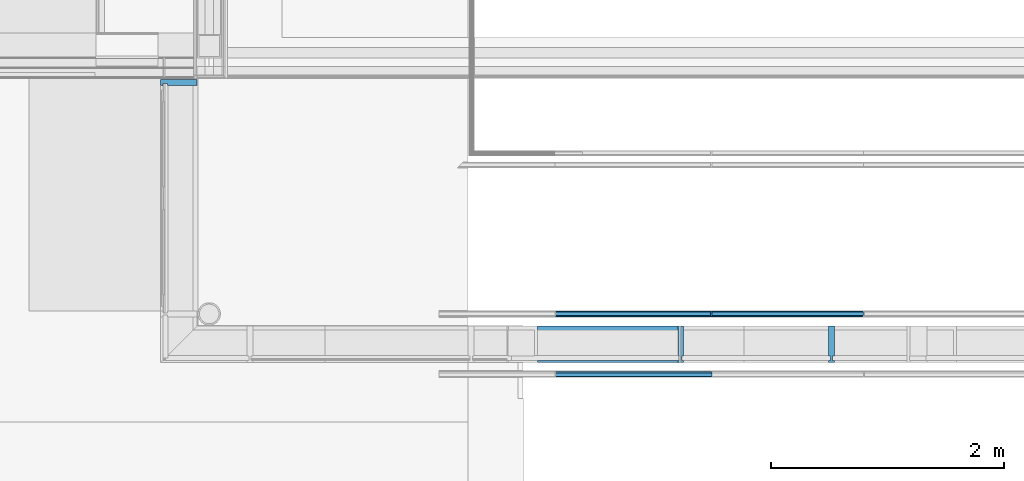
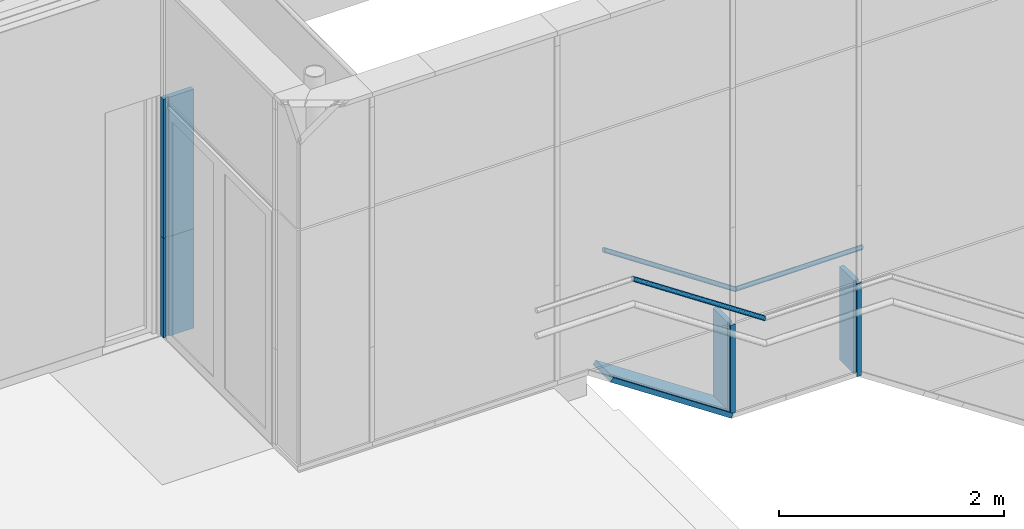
# One storey, part 14 of 137: 8 members, 3 elements without a shape of their own.
"""IFC2X3 building model written with IfcOpenShell, lengths in millimetres."""

from ifc_helpers import new_model, entity, si_unit, converted_unit, derived_unit, money_unit, direction, frame, origin_with_axes, place, context, subcontext, project, spatial, faceted_brep, material, type_object, element, aggregate, save


model = new_model("IFC2X3")

# Units and contexts
model_context = context("Model", 3, precision=0.01, world=origin_with_axes(), true_north=direction((0.0, 1.0)))
body_context = subcontext(model_context, "Body", "Model", "MODEL_VIEW")
ifc_project = project(units=[si_unit("LENGTHUNIT", "METRE", prefix="MILLI"), si_unit("AREAUNIT", "SQUARE_METRE"), si_unit("VOLUMEUNIT", "CUBIC_METRE"), converted_unit("PLANEANGLEUNIT", "DEGREE", entity("IfcPlaneAngleMeasure", 0.0174532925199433), si_unit("PLANEANGLEUNIT", "RADIAN"), dimensions=[0, 0, 0, 0, 0, 0, 0]), money_unit("EUR"), converted_unit("TIMEUNIT", "Year", entity("IfcTimeMeasure", 31556926.0), si_unit("TIMEUNIT", "SECOND"), dimensions=[0, 0, 1, 0, 0, 0, 0]), si_unit("MASSUNIT", "GRAM", prefix="KILO"), si_unit("THERMODYNAMICTEMPERATUREUNIT", "DEGREE_CELSIUS"), si_unit("LUMINOUSINTENSITYUNIT", "LUMEN"), si_unit("ENERGYUNIT", "JOULE", prefix="MEGA"), derived_unit("THERMALCONDUCTANCEUNIT", [(si_unit("POWERUNIT", "WATT"), 1), (si_unit("LENGTHUNIT", "METRE"), -1), (si_unit("THERMODYNAMICTEMPERATUREUNIT", "KELVIN"), -1)]), derived_unit("SPECIFICHEATCAPACITYUNIT", [(si_unit("ENERGYUNIT", "JOULE"), 1), (si_unit("MASSUNIT", "GRAM", prefix="KILO"), -1), (si_unit("THERMODYNAMICTEMPERATUREUNIT", "KELVIN"), -1)]), derived_unit("MASSDENSITYUNIT", [(si_unit("MASSUNIT", "GRAM", prefix="KILO"), 1), (si_unit("VOLUMEUNIT", "CUBIC_METRE"), -1)])], contexts=[model_context])

# Site, building, storey
site_placement = place(None, origin_with_axes())
site = spatial("IfcSite", under=ifc_project, at=site_placement, Name="Site", CompositionType="ELEMENT")
building_placement = place(site_placement, origin_with_axes())
building = spatial("IfcBuilding", under=site, at=building_placement, Name="Naam gebouw", CompositionType="ELEMENT")
storey_placement = place(building_placement, frame((0.0, 0.0, 3960.0), z_axis=(0.0, 0.0, 1.0), x_axis=(1.0, 0.0, 0.0)))
storey = spatial("IfcBuildingStorey", under=building, at=storey_placement, Name="1e verdieping", CompositionType="ELEMENT", Elevation=3960.0)

# Railing, member
railing_type = type_object("IfcRailingType", Name="Railing Type", PredefinedType="NOTDEFINED")
railing_1_placement = place(storey_placement, frame((18789.99987047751, 4162.49999999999, -4086.699999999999), z_axis=(0.0, 0.0, 1.0), x_axis=(1.0, 0.0, 0.0)))
railing_1 = element("IfcRailing", 1, at=railing_1_placement, inside=storey, type_object=railing_type, Name="34_Reling-x", PredefinedType="NOTDEFINED")
ifc_material_1 = material(Name="Metaal - RVS")
member_type_1 = type_object("IfcMemberType", Name="IfcMember", PredefinedType="USERDEFINED")
member_1_placement = place(railing_1_placement, frame((-6294.999882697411, -99.99999999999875, 4132.675675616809), z_axis=(0.0, 0.0, 1.0), x_axis=(1.0, 0.0, 0.0)))
member_1 = element("IfcMember", 2, at=member_1_placement, type_object=member_type_1, material=ifc_material_1, Name="h3 Staal legeringen_", context=body_context, shape_type="Brep", body=[
    faceted_brep([(667.6879100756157, -24.14999999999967, 29.85104165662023), (668.9576311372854, -23.78310723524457, 34.04464514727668), (-681.042253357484, -23.78310723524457, 934.0446451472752), (-682.3119744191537, -24.14999999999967, 929.8510416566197), (666.418189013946, -23.78310723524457, 25.65743816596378), (665.1870477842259, -22.69357679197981, 21.5912551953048), (664.0318939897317, -20.91451350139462, 17.77604165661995), (662.987826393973, -18.49997330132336, 14.32772088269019), (662.0865684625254, -15.52332077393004, 11.35106835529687), (661.355504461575, -12.07500000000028, 8.93652815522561), (660.8168474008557, -8.259786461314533, 7.157464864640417), (660.4869641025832, -4.19360349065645, 6.067934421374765), (660.3758779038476, 0.0, 5.701041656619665), (660.4869641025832, 4.19360349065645, 6.067934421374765), (660.8168474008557, 8.259786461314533, 7.157464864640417), (661.355504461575, 12.07500000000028, 8.93652815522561), (662.0865684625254, 15.52332077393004, 11.35106835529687), (662.987826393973, 18.49997330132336, 14.32772088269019), (664.0318939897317, 20.91451350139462, 17.77604165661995), (665.1870477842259, 22.69357679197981, 21.5912551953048), (666.418189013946, 23.78310723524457, 25.65743816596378), (667.6879100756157, 24.14999999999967, 29.85104165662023), (668.9576311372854, 23.78310723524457, 34.04464514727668), (670.1887723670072, 22.69357679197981, 38.11082811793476), (671.3439261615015, 20.91451350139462, 41.92604165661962), (672.3879937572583, 18.49997330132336, 45.37436243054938), (673.2892516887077, 15.52332077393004, 48.35101495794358), (674.020315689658, 12.07500000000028, 50.76555515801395), (674.5589727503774, 8.259786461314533, 52.54461844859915), (674.8888560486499, 4.19360349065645, 53.6341488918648), (674.9999422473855, 0.0, 54.0010416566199), (674.8888560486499, -4.19360349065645, 53.6341488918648), (674.5589727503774, -8.259786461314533, 52.54461844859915), (674.020315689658, -12.07500000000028, 50.76555515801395), (673.2892516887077, -15.52332077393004, 48.35101495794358), (672.3879937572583, -18.49997330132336, 45.37436243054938), (671.3439261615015, -20.91451350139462, 41.92604165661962), (670.1887723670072, -22.69357679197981, 38.11082811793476), (-679.8111121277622, -22.69357679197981, 938.1108281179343), (-678.6559583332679, -20.91451350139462, 941.9260416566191), (-677.6118907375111, -18.49997330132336, 945.3743624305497), (-676.7106328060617, -15.52332077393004, 948.3510149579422), (-675.9795688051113, -12.07500000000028, 950.7655551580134), (-675.440911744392, -8.259786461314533, 952.5446184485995), (-675.1110284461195, -4.19360349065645, 953.6341488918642), (-674.9999422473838, 0.0, 954.0010416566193), (-675.1110284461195, 4.19360349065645, 953.6341488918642), (-675.440911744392, 8.259786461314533, 952.5446184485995), (-675.9795688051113, 12.07500000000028, 950.7655551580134), (-676.7106328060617, 15.52332077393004, 948.3510149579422), (-677.6118907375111, 18.49997330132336, 945.3743624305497), (-678.6559583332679, 20.91451350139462, 941.9260416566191), (-679.8111121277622, 22.69357679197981, 938.1108281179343), (-681.042253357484, 23.78310723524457, 934.0446451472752), (-682.3119744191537, 24.14999999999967, 929.8510416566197), (-683.5816954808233, 23.78310723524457, 925.6574381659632), (-684.8128367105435, 22.69357679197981, 921.5912551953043), (-685.9679905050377, 20.91451350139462, 917.7760416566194), (-687.0120581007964, 18.49997330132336, 914.3277208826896), (-687.913316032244, 15.52332077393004, 911.3510683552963), (-688.6443800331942, 12.07500000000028, 908.9365281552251), (-689.1830370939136, 8.259786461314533, 907.1574648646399), (-689.5129203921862, 4.19360349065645, 906.0679344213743), (-689.6240065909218, 0.0, 905.7010416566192), (-689.5129203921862, -4.19360349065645, 906.0679344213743), (-689.1830370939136, -8.259786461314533, 907.1574648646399), (-688.6443800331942, -12.07500000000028, 908.9365281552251), (-687.913316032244, -15.52332077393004, 911.3510683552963), (-687.0120581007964, -18.49997330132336, 914.3277208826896), (-685.9679905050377, -20.91451350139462, 917.7760416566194), (-684.8128367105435, -22.69357679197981, 921.5912551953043), (-683.5816954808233, -23.78310723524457, 925.6574381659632)], [[[0, 1, 2, 3]], [[0, 4, 5, 6, 7, 8, 9, 10, 11, 12, 13, 14, 15, 16, 17, 18, 19, 20, 21, 22, 23, 24, 25, 26, 27, 28, 29, 30, 31, 32, 33, 34, 35, 36, 37, 1]], [[1, 37, 38, 2]], [[3, 2, 38, 39, 40, 41, 42, 43, 44, 45, 46, 47, 48, 49, 50, 51, 52, 53, 54, 55, 56, 57, 58, 59, 60, 61, 62, 63, 64, 65, 66, 67, 68, 69, 70, 71]], [[4, 0, 3, 71]], [[5, 4, 71, 70]], [[6, 5, 70, 69]], [[7, 6, 69, 68]], [[8, 7, 68, 67]], [[9, 8, 67, 66]], [[10, 9, 66, 65]], [[11, 10, 65, 64]], [[12, 11, 64, 63]], [[13, 12, 63, 62]], [[14, 13, 62, 61]], [[15, 14, 61, 60]], [[16, 15, 60, 59]], [[17, 16, 59, 58]], [[18, 17, 58, 57]], [[19, 18, 57, 56]], [[20, 19, 56, 55]], [[21, 20, 55, 54]], [[22, 21, 54, 53]], [[23, 22, 53, 52]], [[24, 23, 52, 51]], [[25, 24, 51, 50]], [[26, 25, 50, 49]], [[27, 26, 49, 48]], [[28, 27, 48, 47]], [[29, 28, 47, 46]], [[30, 29, 46, 45]], [[31, 30, 45, 44]], [[32, 31, 44, 43]], [[33, 32, 43, 42]], [[34, 33, 42, 41]], [[35, 34, 41, 40]], [[36, 35, 40, 39]], [[37, 36, 39, 38]]]),
])
aggregate(railing_1, [member_1])

# Railing, members
railing_2_placement = place(storey_placement, frame((18789.99987047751, 4479.999999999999, -4086.699999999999), z_axis=(0.0, 0.0, 1.0), x_axis=(1.0, 0.0, 0.0)))
railing_2 = element("IfcRailing", 3, at=railing_2_placement, inside=storey, type_object=railing_type, Name="34_Reling-x", PredefinedType="NOTDEFINED")
member_2_placement = place(railing_2_placement, frame((-4969.999970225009, 99.99999999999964, 4132.675675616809), z_axis=(0.0, 0.0, 1.0), x_axis=(1.0, 0.0, 0.0)))
member_2 = element("IfcMember", 4, at=member_2_placement, type_object=member_type_1, material=ifc_material_1, Name="h3 Staal legeringen_", context=body_context, shape_type="Brep", body=[
    faceted_brep([(642.6879385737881, -24.14999999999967, 29.85104165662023), (643.9576595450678, -23.78310723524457, 34.04464514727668), (-656.0422813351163, -23.78310723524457, 34.04464514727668), (-657.312002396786, -24.14999999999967, 29.85104165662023), (641.41821760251, -23.78310723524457, 25.65743816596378), (640.1870764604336, -22.69357679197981, 21.5912551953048), (639.031922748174, -20.91451350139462, 17.77604165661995), (637.9878552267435, -18.49997330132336, 14.32772088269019), (637.0865973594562, -15.52332077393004, 11.35106835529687), (636.3555334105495, -12.07500000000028, 8.93652815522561), (635.8168763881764, -8.259786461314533, 7.157464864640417), (635.4869931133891, -4.19360349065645, 6.067934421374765), (635.3759069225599, 0.0, 5.701041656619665), (635.4869931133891, 4.19360349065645, 6.067934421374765), (635.8168763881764, 8.259786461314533, 7.157464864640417), (636.3555334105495, 12.07500000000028, 8.93652815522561), (637.0865973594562, 15.52332077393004, 11.35106835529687), (637.9878552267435, 18.49997330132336, 14.32772088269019), (639.031922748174, 20.91451350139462, 17.77604165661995), (640.1870764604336, 22.69357679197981, 21.5912551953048), (641.41821760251, 23.78310723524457, 25.65743816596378), (642.6879385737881, 24.14999999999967, 29.85104165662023), (643.9576595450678, 23.78310723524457, 34.04464514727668), (645.1888006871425, 22.69357679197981, 38.11082811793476), (646.343954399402, 20.91451350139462, 41.92604165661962), (647.3880219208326, 18.49997330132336, 45.37436243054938), (648.2892797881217, 15.52332077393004, 48.35101495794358), (649.0203437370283, 12.07500000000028, 50.76555515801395), (649.5590007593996, 8.259786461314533, 52.54461844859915), (649.8888840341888, 4.19360349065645, 53.6341488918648), (649.9999702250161, 0.0, 54.0010416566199), (649.8888840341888, -4.19360349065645, 53.6341488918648), (649.5590007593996, -8.259786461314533, 52.54461844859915), (649.0203437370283, -12.07500000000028, 50.76555515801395), (648.2892797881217, -15.52332077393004, 48.35101495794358), (647.3880219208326, -18.49997330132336, 45.37436243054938), (646.343954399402, -20.91451350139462, 41.92604165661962), (645.1888006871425, -22.69357679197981, 38.11082811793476), (-654.8111401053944, -22.69357679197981, 38.11082811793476), (-653.6559863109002, -20.91451350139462, 41.92604165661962), (-652.6119187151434, -18.49997330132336, 45.37436243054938), (-651.710660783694, -15.52332077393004, 48.35101495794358), (-650.9795967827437, -12.07500000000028, 50.76555515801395), (-650.4409397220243, -8.259786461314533, 52.54461844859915), (-650.1110564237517, -4.19360349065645, 53.6341488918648), (-649.9999702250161, 0.0, 54.0010416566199), (-650.1110564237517, 4.19360349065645, 53.6341488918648), (-650.4409397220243, 8.259786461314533, 52.54461844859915), (-650.9795967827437, 12.07500000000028, 50.76555515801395), (-651.710660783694, 15.52332077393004, 48.35101495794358), (-652.6119187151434, 18.49997330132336, 45.37436243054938), (-653.6559863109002, 20.91451350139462, 41.92604165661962), (-654.8111401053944, 22.69357679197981, 38.11082811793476), (-656.0422813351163, 23.78310723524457, 34.04464514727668), (-657.312002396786, 24.14999999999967, 29.85104165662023), (-658.5817234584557, 23.78310723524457, 25.65743816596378), (-659.8128646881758, 22.69357679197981, 21.5912551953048), (-660.96801848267, 20.91451350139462, 17.77604165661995), (-662.0120860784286, 18.49997330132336, 14.32772088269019), (-662.9133440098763, 15.52332077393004, 11.35106835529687), (-663.6444080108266, 12.07500000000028, 8.93652815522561), (-664.1830650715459, 8.259786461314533, 7.157464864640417), (-664.5129483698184, 4.19360349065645, 6.067934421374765), (-664.6240345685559, 0.0, 5.701041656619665), (-664.5129483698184, -4.19360349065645, 6.067934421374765), (-664.1830650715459, -8.259786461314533, 7.157464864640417), (-663.6444080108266, -12.07500000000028, 8.93652815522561), (-662.9133440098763, -15.52332077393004, 11.35106835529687), (-662.0120860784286, -18.49997330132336, 14.32772088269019), (-660.96801848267, -20.91451350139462, 17.77604165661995), (-659.8128646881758, -22.69357679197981, 21.5912551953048), (-658.5817234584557, -23.78310723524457, 25.65743816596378)], [[[0, 1, 2, 3]], [[0, 4, 5, 6, 7, 8, 9, 10, 11, 12, 13, 14, 15, 16, 17, 18, 19, 20, 21, 22, 23, 24, 25, 26, 27, 28, 29, 30, 31, 32, 33, 34, 35, 36, 37, 1]], [[1, 37, 38, 2]], [[3, 2, 38, 39, 40, 41, 42, 43, 44, 45, 46, 47, 48, 49, 50, 51, 52, 53, 54, 55, 56, 57, 58, 59, 60, 61, 62, 63, 64, 65, 66, 67, 68, 69, 70, 71]], [[4, 0, 3, 71]], [[5, 4, 71, 70]], [[6, 5, 70, 69]], [[7, 6, 69, 68]], [[8, 7, 68, 67]], [[9, 8, 67, 66]], [[10, 9, 66, 65]], [[11, 10, 65, 64]], [[12, 11, 64, 63]], [[13, 12, 63, 62]], [[14, 13, 62, 61]], [[15, 14, 61, 60]], [[16, 15, 60, 59]], [[17, 16, 59, 58]], [[18, 17, 58, 57]], [[19, 18, 57, 56]], [[20, 19, 56, 55]], [[21, 20, 55, 54]], [[22, 21, 54, 53]], [[23, 22, 53, 52]], [[24, 23, 52, 51]], [[25, 24, 51, 50]], [[26, 25, 50, 49]], [[27, 26, 49, 48]], [[28, 27, 48, 47]], [[29, 28, 47, 46]], [[30, 29, 46, 45]], [[31, 30, 45, 44]], [[32, 31, 44, 43]], [[33, 32, 43, 42]], [[34, 33, 42, 41]], [[35, 34, 41, 40]], [[36, 35, 40, 39]], [[37, 36, 39, 38]]]),
])
member_3_placement = place(railing_2_placement, frame((-6294.999882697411, 99.99999999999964, 4132.675675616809), z_axis=(0.0, 0.0, 1.0), x_axis=(1.0, 0.0, 0.0)))
member_3 = element("IfcMember", 5, at=member_3_placement, type_object=member_type_1, material=ifc_material_1, Name="h3 Staal legeringen_", context=body_context, shape_type="Brep", body=[
    faceted_brep([(667.6879100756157, -24.14999999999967, 29.85104165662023), (668.9576311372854, -23.78310723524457, 34.04464514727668), (-681.042253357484, -23.78310723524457, 934.0446451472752), (-682.3119744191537, -24.14999999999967, 929.8510416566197), (666.418189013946, -23.78310723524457, 25.65743816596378), (665.1870477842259, -22.69357679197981, 21.5912551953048), (664.0318939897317, -20.91451350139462, 17.77604165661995), (662.987826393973, -18.49997330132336, 14.32772088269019), (662.0865684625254, -15.52332077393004, 11.35106835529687), (661.355504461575, -12.07500000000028, 8.93652815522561), (660.8168474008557, -8.259786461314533, 7.157464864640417), (660.4869641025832, -4.19360349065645, 6.067934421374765), (660.3758779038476, 0.0, 5.701041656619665), (660.4869641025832, 4.19360349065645, 6.067934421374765), (660.8168474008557, 8.259786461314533, 7.157464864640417), (661.355504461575, 12.07500000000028, 8.93652815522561), (662.0865684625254, 15.52332077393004, 11.35106835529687), (662.987826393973, 18.49997330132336, 14.32772088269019), (664.0318939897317, 20.91451350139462, 17.77604165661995), (665.1870477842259, 22.69357679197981, 21.5912551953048), (666.418189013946, 23.78310723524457, 25.65743816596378), (667.6879100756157, 24.14999999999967, 29.85104165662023), (668.9576311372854, 23.78310723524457, 34.04464514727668), (670.1887723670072, 22.69357679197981, 38.11082811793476), (671.3439261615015, 20.91451350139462, 41.92604165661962), (672.3879937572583, 18.49997330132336, 45.37436243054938), (673.2892516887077, 15.52332077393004, 48.35101495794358), (674.020315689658, 12.07500000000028, 50.76555515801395), (674.5589727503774, 8.259786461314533, 52.54461844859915), (674.8888560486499, 4.19360349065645, 53.6341488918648), (674.9999422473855, 0.0, 54.0010416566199), (674.8888560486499, -4.19360349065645, 53.6341488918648), (674.5589727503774, -8.259786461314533, 52.54461844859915), (674.020315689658, -12.07500000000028, 50.76555515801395), (673.2892516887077, -15.52332077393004, 48.35101495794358), (672.3879937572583, -18.49997330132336, 45.37436243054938), (671.3439261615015, -20.91451350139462, 41.92604165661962), (670.1887723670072, -22.69357679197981, 38.11082811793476), (-679.8111121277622, -22.69357679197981, 938.1108281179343), (-678.6559583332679, -20.91451350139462, 941.9260416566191), (-677.6118907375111, -18.49997330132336, 945.3743624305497), (-676.7106328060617, -15.52332077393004, 948.3510149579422), (-675.9795688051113, -12.07500000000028, 950.7655551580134), (-675.440911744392, -8.259786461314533, 952.5446184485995), (-675.1110284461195, -4.19360349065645, 953.6341488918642), (-674.9999422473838, 0.0, 954.0010416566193), (-675.1110284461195, 4.19360349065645, 953.6341488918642), (-675.440911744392, 8.259786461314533, 952.5446184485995), (-675.9795688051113, 12.07500000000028, 950.7655551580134), (-676.7106328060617, 15.52332077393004, 948.3510149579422), (-677.6118907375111, 18.49997330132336, 945.3743624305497), (-678.6559583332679, 20.91451350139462, 941.9260416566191), (-679.8111121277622, 22.69357679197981, 938.1108281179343), (-681.042253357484, 23.78310723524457, 934.0446451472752), (-682.3119744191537, 24.14999999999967, 929.8510416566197), (-683.5816954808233, 23.78310723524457, 925.6574381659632), (-684.8128367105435, 22.69357679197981, 921.5912551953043), (-685.9679905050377, 20.91451350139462, 917.7760416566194), (-687.0120581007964, 18.49997330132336, 914.3277208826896), (-687.913316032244, 15.52332077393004, 911.3510683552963), (-688.6443800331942, 12.07500000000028, 908.9365281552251), (-689.1830370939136, 8.259786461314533, 907.1574648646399), (-689.5129203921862, 4.19360349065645, 906.0679344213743), (-689.6240065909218, 0.0, 905.7010416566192), (-689.5129203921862, -4.19360349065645, 906.0679344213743), (-689.1830370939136, -8.259786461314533, 907.1574648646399), (-688.6443800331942, -12.07500000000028, 908.9365281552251), (-687.913316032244, -15.52332077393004, 911.3510683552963), (-687.0120581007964, -18.49997330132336, 914.3277208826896), (-685.9679905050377, -20.91451350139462, 917.7760416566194), (-684.8128367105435, -22.69357679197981, 921.5912551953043), (-683.5816954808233, -23.78310723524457, 925.6574381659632)], [[[0, 1, 2, 3]], [[0, 4, 5, 6, 7, 8, 9, 10, 11, 12, 13, 14, 15, 16, 17, 18, 19, 20, 21, 22, 23, 24, 25, 26, 27, 28, 29, 30, 31, 32, 33, 34, 35, 36, 37, 1]], [[1, 37, 38, 2]], [[3, 2, 38, 39, 40, 41, 42, 43, 44, 45, 46, 47, 48, 49, 50, 51, 52, 53, 54, 55, 56, 57, 58, 59, 60, 61, 62, 63, 64, 65, 66, 67, 68, 69, 70, 71]], [[4, 0, 3, 71]], [[5, 4, 71, 70]], [[6, 5, 70, 69]], [[7, 6, 69, 68]], [[8, 7, 68, 67]], [[9, 8, 67, 66]], [[10, 9, 66, 65]], [[11, 10, 65, 64]], [[12, 11, 64, 63]], [[13, 12, 63, 62]], [[14, 13, 62, 61]], [[15, 14, 61, 60]], [[16, 15, 60, 59]], [[17, 16, 59, 58]], [[18, 17, 58, 57]], [[19, 18, 57, 56]], [[20, 19, 56, 55]], [[21, 20, 55, 54]], [[22, 21, 54, 53]], [[23, 22, 53, 52]], [[24, 23, 52, 51]], [[25, 24, 51, 50]], [[26, 25, 50, 49]], [[27, 26, 49, 48]], [[28, 27, 48, 47]], [[29, 28, 47, 46]], [[30, 29, 46, 45]], [[31, 30, 45, 44]], [[32, 31, 44, 43]], [[33, 32, 43, 42]], [[34, 33, 42, 41]], [[35, 34, 41, 40]], [[36, 35, 40, 39]], [[37, 36, 39, 38]]]),
])
aggregate(railing_2, [member_2, member_3])

# Curtain wall, members
curtain_wall_type = type_object("IfcCurtainWallType", Name="Curtain Wall Type", PredefinedType="NOTDEFINED")
curtain_wall_placement = place(storey_placement, frame((8473.014787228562, 4364.43626274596, -3949.999921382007), z_axis=(0.0, 0.0, 1.0), x_axis=(1.0, 0.0, 0.0)))
curtain_wall = element("IfcCurtainWall", 6, at=curtain_wall_placement, inside=storey, type_object=curtain_wall_type, Name="21_Vliesgevel-x")
ifc_material_2 = material(Name="Metaal - Staal AFW")
member_type_2 = type_object("IfcMemberType", Name="Boundary Frame 50 x 313", PredefinedType="MULLION")
member_4_placement = place(curtain_wall_placement, frame((0.0, 2229.563386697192, 3960.000105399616), z_axis=(0.0, 0.0, 1.0), x_axis=(0.0, 1.0, 0.0)))
member_4 = element("IfcMember", 7, at=member_4_placement, type_object=member_type_2, material=ifc_material_2, Name="h METAAL_Kader-x", ObjectType="MULLION", context=body_context, shape_type="Brep", body=[
    faceted_brep([(-35.00000000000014, -17.4000000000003, 0.0), (-35.00000000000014, -17.4000000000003, 1079.999660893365), (-35.00000000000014, 21.0000000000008, 1079.999660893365), (-35.00000000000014, 21.0000000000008, 0.0), (-14.99999999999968, -17.4000000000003, 0.0), (-14.99999999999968, -17.4000000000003, 1079.999660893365), (-14.99999999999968, 21.0000000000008, 1079.999660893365), (-14.99999999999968, 21.0000000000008, 0.0)], [[[0, 1, 2, 3]], [[4, 5, 1, 0]], [[1, 5, 6, 2]], [[3, 2, 6, 7]], [[0, 3, 7, 4]], [[7, 6, 5, 4]]]),
    faceted_brep([(-14.99999999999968, -21.0000000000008, 0.0), (-14.99999999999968, -21.0000000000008, 1079.999660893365), (-14.99999999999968, 21.0000000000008, 1079.999660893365), (-14.99999999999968, 21.0000000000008, 0.0), (0.0, -21.0000000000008, 0.0), (0.0, -21.0000000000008, 1079.999660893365), (0.0, 21.0000000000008, 1079.999660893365), (0.0, 21.0000000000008, 0.0)], [[[0, 1, 2, 3]], [[4, 5, 1, 0]], [[1, 5, 6, 2]], [[3, 2, 6, 7]], [[0, 3, 7, 4]], [[7, 6, 5, 4]]]),
    faceted_brep([(-49.99999999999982, -272.0000000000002, 0.0), (-49.99999999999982, -272.0000000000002, 1079.999660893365), (-49.99999999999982, -17.4000000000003, 1079.999660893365), (-49.99999999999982, -17.4000000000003, 0.0), (0.0, -272.0000000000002, 0.0), (0.0, -272.0000000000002, 1079.999660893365), (0.0, -17.4000000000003, 1079.999660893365), (0.0, -17.4000000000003, 0.0)], [[[0, 1, 2, 3]], [[4, 5, 1, 0]], [[1, 5, 6, 2]], [[3, 2, 6, 7]], [[0, 3, 7, 4]], [[7, 6, 5, 4]]]),
    faceted_brep([(0.0, 41.00000000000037, 0.0), (0.0, 41.00000000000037, 1079.999660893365), (0.0, 21.0000000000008, 1079.999660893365), (0.0, 21.0000000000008, 0.0), (-49.99999999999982, 41.00000000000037, 0.0), (-49.99999999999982, 41.00000000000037, 1079.999660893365), (-49.99999999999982, 21.0000000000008, 1079.999660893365), (-49.99999999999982, 21.0000000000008, 0.0)], [[[0, 1, 2, 3]], [[4, 5, 1, 0]], [[1, 5, 6, 2]], [[3, 2, 6, 7]], [[0, 3, 7, 4]], [[7, 6, 5, 4]]]),
])
member_5_placement = place(curtain_wall_placement, frame((3169.941645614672, -161.43626274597, 3802.646041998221), z_axis=(0.8320503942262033, 0.0, -0.5547000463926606), x_axis=(0.5547000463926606, 0.0, 0.8320503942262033)))
member_5 = element("IfcMember", 8, at=member_5_placement, type_object=member_type_2, material=ifc_material_2, Name="h METAAL_Kader-x", ObjectType="MULLION", context=body_context, shape_type="Brep", body=[
    faceted_brep([(35.00000000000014, -17.4000000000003, -3.904242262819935e-06), (35.00000000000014, 20.99999999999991, -3.904242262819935e-06), (35.00000000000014, 20.99999999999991, 1481.981059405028), (35.00000000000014, -17.4000000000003, 1481.981059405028), (15.00000000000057, -17.4000000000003, -3.904243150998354e-06), (15.00000000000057, 20.99999999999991, -3.904243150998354e-06), (15.00000000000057, 20.99999999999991, 1488.036570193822), (15.00000000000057, -17.4000000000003, 1488.036570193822)], [[[0, 1, 2, 3]], [[0, 4, 5, 1]], [[1, 5, 6, 2]], [[3, 2, 6, 7]], [[4, 0, 3, 7]], [[5, 4, 7, 6]]]),
    faceted_brep([(15.00000000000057, -20.99999999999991, -3.904243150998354e-06), (15.00000000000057, 20.99999999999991, -3.904243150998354e-06), (15.00000000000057, 20.99999999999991, 1488.036570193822), (15.00000000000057, -20.99999999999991, 1488.036570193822), (0.0, -20.99999999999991, -3.904242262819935e-06), (0.0, 20.99999999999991, -3.904242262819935e-06), (0.0, 20.99999999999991, 1492.578203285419), (0.0, -20.99999999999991, 1492.578203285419)], [[[0, 1, 2, 3]], [[0, 4, 5, 1]], [[1, 5, 6, 2]], [[3, 2, 6, 7]], [[4, 0, 3, 7]], [[5, 4, 7, 6]]]),
    faceted_brep([(50.00000000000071, -272.0000000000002, -3.904240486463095e-06), (50.00000000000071, -17.4000000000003, -3.904242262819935e-06), (50.00000000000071, -17.4000000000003, 1477.439426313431), (50.00000000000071, -272.0000000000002, 1477.439426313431), (0.0, -272.0000000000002, -3.904242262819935e-06), (0.0, -17.4000000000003, -3.904242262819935e-06), (0.0, -17.4000000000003, 1492.578203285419), (0.0, -272.0000000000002, 1492.578203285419)], [[[0, 1, 2, 3]], [[0, 4, 5, 1]], [[1, 5, 6, 2]], [[3, 2, 6, 7]], [[4, 0, 3, 7]], [[5, 4, 7, 6]]]),
    faceted_brep([(0.0, 41.00000000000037, -3.904242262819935e-06), (0.0, 20.99999999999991, -3.904242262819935e-06), (0.0, 20.99999999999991, 1492.578203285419), (0.0, 41.00000000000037, 1492.578203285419), (50.00000000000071, 41.00000000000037, -3.904242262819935e-06), (50.00000000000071, 20.99999999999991, -3.904242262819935e-06), (50.00000000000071, 20.99999999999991, 1477.439426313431), (50.00000000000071, 41.00000000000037, 1477.439426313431)], [[[0, 1, 2, 3]], [[0, 4, 5, 1]], [[1, 5, 6, 2]], [[3, 2, 6, 7]], [[4, 0, 3, 7]], [[5, 4, 7, 6]]]),
])
member_6_placement = place(curtain_wall_placement, frame((0.0, 2229.563386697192, 5039.999766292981), z_axis=(0.0, 0.0, 1.0), x_axis=(0.0, 1.0, 0.0)))
member_6 = element("IfcMember", 9, at=member_6_placement, type_object=member_type_2, material=ifc_material_2, Name="h METAAL_Kader-x", ObjectType="MULLION", context=body_context, shape_type="Brep", body=[
    faceted_brep([(-35.00000000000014, -17.4000000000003, 0.0), (-35.00000000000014, -17.4000000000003, 1510.000173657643), (-35.00000000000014, 21.0000000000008, 1510.000173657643), (-35.00000000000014, 21.0000000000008, 0.0), (-14.99999999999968, -17.4000000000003, 0.0), (-14.99999999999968, -17.4000000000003, 1510.000173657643), (-14.99999999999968, 21.0000000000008, 1510.000173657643), (-14.99999999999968, 21.0000000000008, 0.0)], [[[0, 1, 2, 3]], [[4, 5, 1, 0]], [[1, 5, 6, 2]], [[3, 2, 6, 7]], [[0, 3, 7, 4]], [[7, 6, 5, 4]]]),
    faceted_brep([(-14.99999999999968, -21.0000000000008, 0.0), (-14.99999999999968, -21.0000000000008, 1510.000173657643), (-14.99999999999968, 21.0000000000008, 1510.000173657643), (-14.99999999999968, 21.0000000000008, 0.0), (0.0, -21.0000000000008, 0.0), (0.0, -21.0000000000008, 1510.000173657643), (0.0, 21.0000000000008, 1510.000173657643), (0.0, 21.0000000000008, 0.0)], [[[0, 1, 2, 3]], [[4, 5, 1, 0]], [[1, 5, 6, 2]], [[3, 2, 6, 7]], [[0, 3, 7, 4]], [[7, 6, 5, 4]]]),
    faceted_brep([(-49.99999999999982, -272.0000000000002, 0.0), (-49.99999999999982, -272.0000000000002, 1510.000173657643), (-49.99999999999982, -17.4000000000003, 1510.000173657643), (-49.99999999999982, -17.4000000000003, 0.0), (0.0, -272.0000000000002, 0.0), (0.0, -272.0000000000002, 1510.000173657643), (0.0, -17.4000000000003, 1510.000173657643), (0.0, -17.4000000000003, 0.0)], [[[0, 1, 2, 3]], [[4, 5, 1, 0]], [[1, 5, 6, 2]], [[3, 2, 6, 7]], [[0, 3, 7, 4]], [[7, 6, 5, 4]]]),
    faceted_brep([(0.0, 41.00000000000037, 0.0), (0.0, 41.00000000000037, 1510.000173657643), (0.0, 21.0000000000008, 1510.000173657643), (0.0, 21.0000000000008, 0.0), (-49.99999999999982, 41.00000000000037, 0.0), (-49.99999999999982, 41.00000000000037, 1510.000173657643), (-49.99999999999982, 21.0000000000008, 1510.000173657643), (-49.99999999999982, 21.0000000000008, 0.0)], [[[0, 1, 2, 3]], [[4, 5, 1, 0]], [[1, 5, 6, 2]], [[3, 2, 6, 7]], [[0, 3, 7, 4]], [[7, 6, 5, 4]]]),
])
member_type_3 = type_object("IfcMemberType", Name="Mullion Frame 50 x 313", PredefinedType="MULLION")
member_7_placement = place(curtain_wall_placement, frame((4426.980383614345, -161.43626274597, 2974.712843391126), z_axis=(0.0, 0.0, 1.0), x_axis=(-1.0, 0.0, 0.0)))
member_7 = element("IfcMember", 10, at=member_7_placement, type_object=member_type_3, material=ifc_material_2, Name="h METAAL_Kader-x", ObjectType="MULLION", context=body_context, shape_type="Brep", body=[
    faceted_brep([(9.999999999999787, 20.99999999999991, 49.99999999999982), (9.999999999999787, 20.99999999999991, 1010.287088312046), (9.999999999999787, -17.4000000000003, 1010.287088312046), (9.999999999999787, -17.4000000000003, 49.99999999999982), (-9.999999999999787, 20.99999999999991, 49.99999999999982), (-9.999999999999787, 20.99999999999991, 1010.287088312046), (-9.999999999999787, -17.4000000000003, 1010.287088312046), (-9.999999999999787, -17.4000000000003, 49.99999999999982)], [[[0, 1, 2, 3]], [[4, 5, 1, 0]], [[2, 1, 5, 6]], [[3, 2, 6, 7]], [[3, 7, 4, 0]], [[7, 6, 5, 4]]]),
    faceted_brep([(25.00000000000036, -17.4000000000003, 49.99999999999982), (25.00000000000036, -17.4000000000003, 1010.287088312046), (25.00000000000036, -272.0000000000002, 1010.287088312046), (25.00000000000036, -272.0000000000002, 50.00000000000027), (-25.00000000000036, -17.4000000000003, 49.99999999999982), (-25.00000000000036, -17.4000000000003, 1010.287088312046), (-25.00000000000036, -272.0000000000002, 1010.287088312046), (-25.00000000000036, -272.0000000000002, 50.00000000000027)], [[[0, 1, 2, 3]], [[4, 5, 1, 0]], [[2, 1, 5, 6]], [[3, 2, 6, 7]], [[3, 7, 4, 0]], [[7, 6, 5, 4]]]),
    faceted_brep([(-25.00000000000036, 20.99999999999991, 49.99999999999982), (-25.00000000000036, 20.99999999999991, 1010.287088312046), (-25.00000000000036, 40.49999999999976, 1010.287088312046), (-25.00000000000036, 40.49999999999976, 49.99999999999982), (25.00000000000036, 20.99999999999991, 49.99999999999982), (25.00000000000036, 20.99999999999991, 1010.287088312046), (25.00000000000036, 40.49999999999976, 1010.287088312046), (25.00000000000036, 40.49999999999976, 49.99999999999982)], [[[0, 1, 2, 3]], [[4, 5, 1, 0]], [[2, 1, 5, 6]], [[3, 2, 6, 7]], [[3, 7, 4, 0]], [[7, 6, 5, 4]]]),
])
member_8_placement = place(curtain_wall_placement, frame((5721.980381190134, -161.43626274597, 2974.712845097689), z_axis=(1.330420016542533e-08, 0.0, 0.9999999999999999), x_axis=(-0.9999999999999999, 0.0, 1.330420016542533e-08)))
member_8 = element("IfcMember", 11, at=member_8_placement, type_object=member_type_3, material=ifc_material_2, Name="h METAAL_Kader-x", ObjectType="MULLION", context=body_context, shape_type="Brep", body=[
    faceted_brep([(9.999999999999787, -17.4000000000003, -1.330420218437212e-07), (9.999999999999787, 20.99999999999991, -1.330420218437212e-07), (10.00001344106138, 20.99999999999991, 1010.287084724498), (10.00001344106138, -17.4000000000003, 1010.287084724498), (-9.999999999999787, -17.4000000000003, 1.330420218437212e-07), (-9.999999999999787, 20.99999999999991, 1.330420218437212e-07), (-9.99998655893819, 20.99999999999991, 1010.287084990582), (-9.99998655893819, -17.4000000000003, 1010.287084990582)], [[[0, 1, 2, 3]], [[0, 4, 5, 1]], [[1, 5, 6, 2]], [[3, 2, 6, 7]], [[4, 0, 3, 7]], [[5, 4, 7, 6]]]),
    faceted_brep([(25.00000000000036, -272.0000000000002, -3.326050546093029e-07), (25.00000000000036, -17.4000000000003, -3.326050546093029e-07), (25.00001344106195, -17.4000000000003, 1010.287084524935), (25.00001344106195, -272.0000000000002, 1010.287084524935), (-25.00000000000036, -272.0000000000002, 3.326050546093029e-07), (-25.00000000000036, -17.4000000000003, 3.326050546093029e-07), (-24.99998655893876, -17.4000000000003, 1010.287085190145), (-24.99998655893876, -272.0000000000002, 1010.287085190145)], [[[0, 1, 2, 3]], [[0, 4, 5, 1]], [[1, 5, 6, 2]], [[3, 2, 6, 7]], [[4, 0, 3, 7]], [[5, 4, 7, 6]]]),
    faceted_brep([(-25.00000000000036, 40.49999999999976, 3.326050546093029e-07), (-25.00000000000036, 20.99999999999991, 3.326050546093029e-07), (-24.99998655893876, 20.99999999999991, 1010.287085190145), (-24.99998655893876, 40.49999999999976, 1010.287085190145), (25.00000000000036, 40.49999999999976, -3.326050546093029e-07), (25.00000000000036, 20.99999999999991, -3.326050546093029e-07), (25.00001344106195, 20.99999999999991, 1010.287084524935), (25.00001344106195, 40.49999999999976, 1010.287084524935)], [[[0, 1, 2, 3]], [[0, 4, 5, 1]], [[1, 5, 6, 2]], [[3, 2, 6, 7]], [[4, 0, 3, 7]], [[5, 4, 7, 6]]]),
])
aggregate(curtain_wall, [member_4, member_5, member_6, member_7, member_8])

save(model, "model.ifc")
